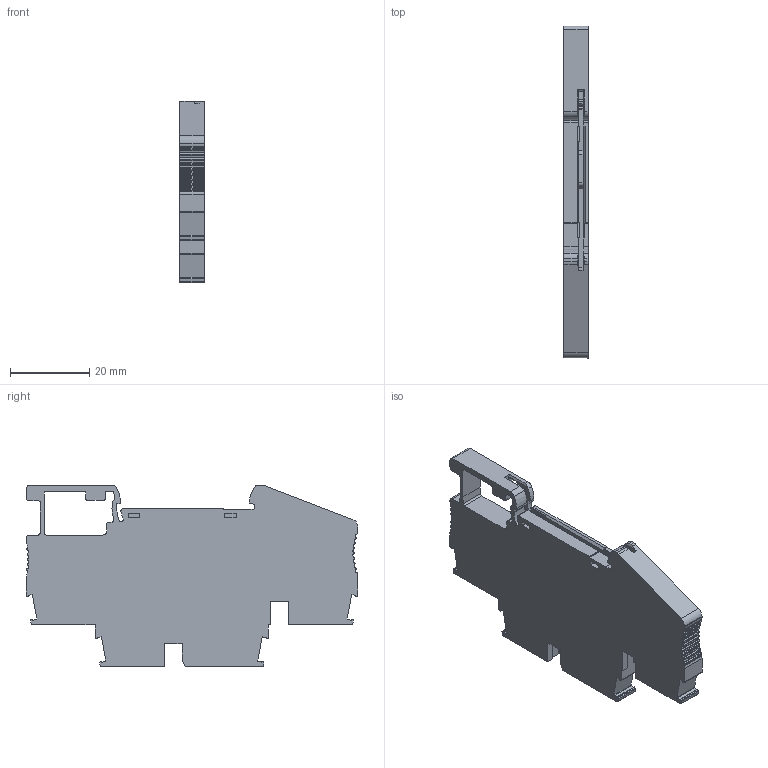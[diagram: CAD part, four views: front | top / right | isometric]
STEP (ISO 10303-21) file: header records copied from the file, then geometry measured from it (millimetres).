
FILE_DESCRIPTION((''),'2;1');
FILE_NAME('ADMI52F4AE488O63_10','2024-04-01T15:15:10',('Administrator'),(''),'CREO PARAMETRIC BY PTC INC, 2018050','CREO PARAMETRIC BY PTC INC, 2018050','');
FILE_SCHEMA(('CONFIG_CONTROL_DESIGN'));
Length unit declared in the file: millimetre
Products named in the file (1): ADMI52F4AE488O63_10
Bounding box: 6.2 x 83.65 x 45.85 mm (x, y, z)
Volume: 15211.5 mm3; surface area: 10543.2 mm2
Topology: 1 solids, 3 shells, 1054 faces, 2991 edges, 1949 vertices
Faces by surface type: plane 623, cylinder 362, torus 32, cone 28, bspline 8, extrusion 1
Entity records: 35903 total; most frequent: CARTESIAN_POINT 8475, ORIENTED_EDGE 5966, DIRECTION 5454, EDGE_CURVE 2983, VECTOR 2070, LINE 2069, VERTEX_POINT 1949, AXIS2_PLACEMENT_3D 1692
